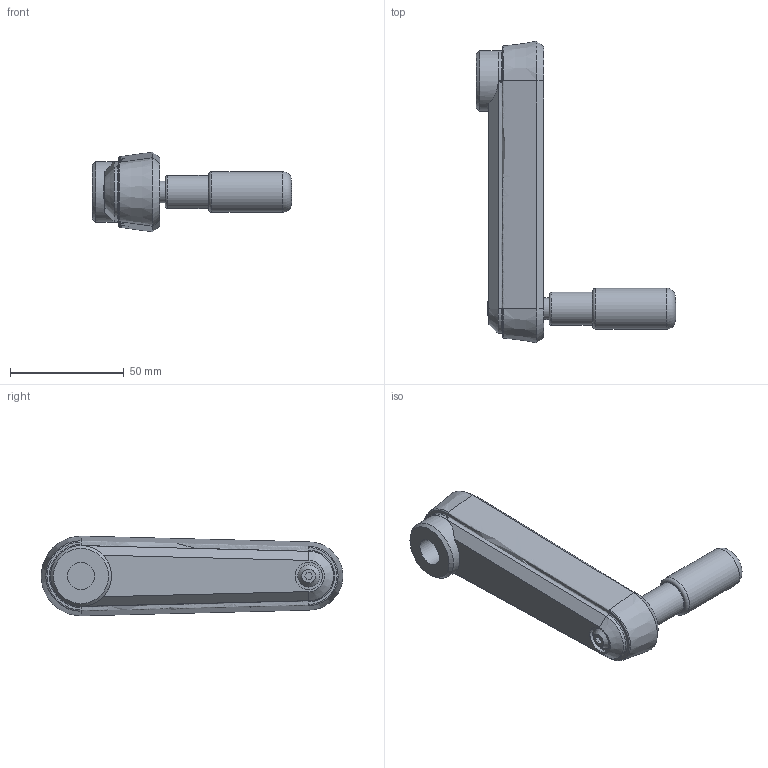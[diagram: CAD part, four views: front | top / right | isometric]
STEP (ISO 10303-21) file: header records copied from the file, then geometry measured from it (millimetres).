
FILE_DESCRIPTION( ( 'STEP AP203' ), '1' );
FILE_NAME( 'C:/Temp/Ganter_Step_05_03_2020/data/1_3/gn_472_3/Cranked handle with retractable handle GN 472.3-100-B12-SR (activated).stp', '2020-03-05T10:45:53', ( 'License CC BY-ND 4.0' ), ( 'CADENAS' ), ' ', 'PARTsolutions', ' ' );
FILE_SCHEMA( ( 'CONFIG_CONTROL_DESIGN' ) );
Length unit declared in the file: millimetre
Products named in the file (3): Cranked handle with retractable handle GN 472.3-100-B12-SR (activated); _Cranked handle with retractable handle GN 472.3-100-B12-SR (90)-1; _Cranked handle with retractable handle GN 472.3-100-B12-SR (90)-2
Assembly tree (2 placements, depth 2):
  Cranked handle with retractable handle GN 472.3-100-B12-SR (activated)
    _Cranked handle with retractable handle GN 472.3-100-B12-SR (90)-1
    _Cranked handle with retractable handle GN 472.3-100-B12-SR (90)-2
Bounding box: 87.44 x 132.5 x 35 mm (x, y, z)
Volume: 67786.7 mm3; surface area: 23755.9 mm2
Topology: 2 solids, 3 shells, 94 faces, 229 edges, 151 vertices
Faces by surface type: plane 42, cylinder 27, torus 12, cone 10, bspline 2, sphere 1
Full cylindrical faces by diameter (mm): 3 x2, 8 x1, 9.5 x1, 12 x2, 14.5 x1, 16.02 x1, 18 x1, 20 x2, 26.7 x1
Entity records: 2920 total; most frequent: CARTESIAN_POINT 721, DIRECTION 433, ORIENTED_EDGE 404, EDGE_CURVE 202, AXIS2_PLACEMENT_3D 179, VERTEX_POINT 146, EDGE_LOOP 129, FACE_OUTER_BOUND 112
